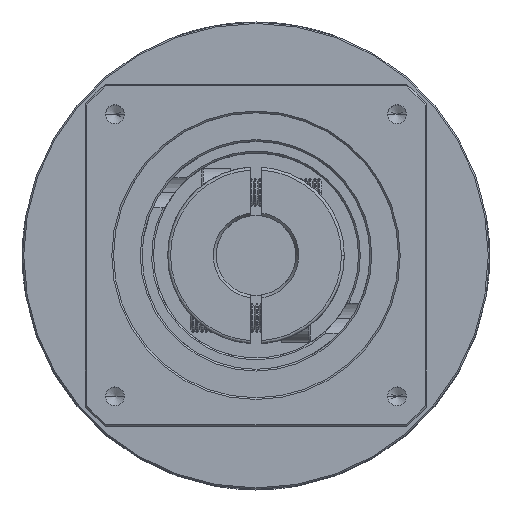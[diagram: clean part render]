
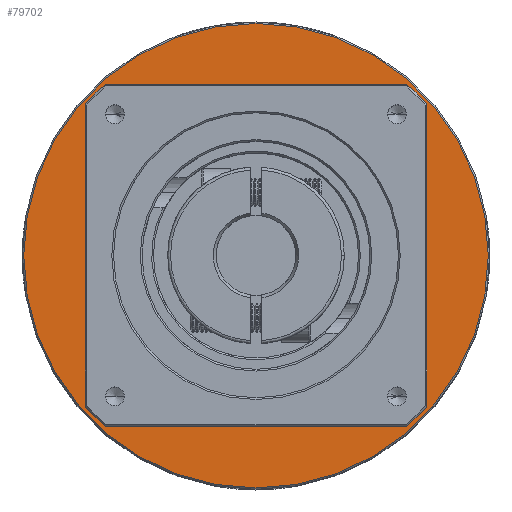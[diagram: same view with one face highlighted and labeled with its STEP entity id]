
A CAD part, top view. The second image highlights one B-rep face of the part: STEP entity #79702.
In plain terms, the highlighted planar face has unit normal (0, 0, 1).
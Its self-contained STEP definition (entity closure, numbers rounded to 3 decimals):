
#4135 = CIRCLE ( 'NONE', #102585, 40.75 ) ;
#4404 = EDGE_CURVE ( 'NONE', #85262, #93563, #19934, .T. ) ;
#7989 = DIRECTION ( 'NONE',  ( 1., 0., 0. ) ) ;
#8494 = AXIS2_PLACEMENT_3D ( 'NONE', #48746, #110850, #57627 ) ;
#12412 = AXIS2_PLACEMENT_3D ( 'NONE', #98081, #44962, #107081 ) ;
#14315 = AXIS2_PLACEMENT_3D ( 'NONE', #114461, #61302, #7989 ) ;
#19934 = CIRCLE ( 'NONE', #8494, 30. ) ;
#20950 = EDGE_CURVE ( 'NONE', #22572, #65944, #51427, .T. ) ;
#22021 = AXIS2_PLACEMENT_3D ( 'NONE', #79377, #26232, #88254 ) ;
#22572 = VERTEX_POINT ( 'NONE', #27187 ) ;
#25544 = PLANE ( 'NONE',  #14315 ) ;
#26232 = DIRECTION ( 'NONE',  ( 0., 0., -1. ) ) ;
#27187 = CARTESIAN_POINT ( 'NONE',  ( -59.66, -21.798, -4.364 ) ) ;
#30404 = DIRECTION ( 'NONE',  ( 0., 0., -1. ) ) ;
#32382 = ORIENTED_EDGE ( 'NONE', *, *, #85033, .F. ) ;
#36769 = CARTESIAN_POINT ( 'NONE',  ( -29.66, 18.952, -4.364 ) ) ;
#40386 = CIRCLE ( 'NONE', #22021, 30. ) ;
#44135 = EDGE_LOOP ( 'NONE', ( #32382, #88581 ) ) ;
#44962 = DIRECTION ( 'NONE',  ( 0., 0., -1. ) ) ;
#47084 = EDGE_CURVE ( 'NONE', #93563, #85262, #40386, .T. ) ;
#48746 = CARTESIAN_POINT ( 'NONE',  ( -59.66, 18.952, -4.364 ) ) ;
#51427 = CIRCLE ( 'NONE', #12412, 40.75 ) ;
#52357 = EDGE_LOOP ( 'NONE', ( #92919, #79896 ) ) ;
#53719 = FACE_BOUND ( 'NONE', #52357, .T. ) ;
#55944 = CARTESIAN_POINT ( 'NONE',  ( -89.66, 18.952, -4.364 ) ) ;
#57627 = DIRECTION ( 'NONE',  ( -1., 0., 0. ) ) ;
#61302 = DIRECTION ( 'NONE',  ( 0., 0., 1. ) ) ;
#65944 = VERTEX_POINT ( 'NONE', #80648 ) ;
#77325 = FACE_OUTER_BOUND ( 'NONE', #44135, .T. ) ;
#79377 = CARTESIAN_POINT ( 'NONE',  ( -59.66, 18.952, -4.364 ) ) ;
#79702 = ADVANCED_FACE ( 'NONE', ( #77325, #53719 ), #25544, .T. ) ;
#79896 = ORIENTED_EDGE ( 'NONE', *, *, #4404, .T. ) ;
#80648 = CARTESIAN_POINT ( 'NONE',  ( -59.66, 59.702, -4.364 ) ) ;
#83547 = CARTESIAN_POINT ( 'NONE',  ( -59.66, 18.952, -4.364 ) ) ;
#85033 = EDGE_CURVE ( 'NONE', #65944, #22572, #4135, .T. ) ;
#85262 = VERTEX_POINT ( 'NONE', #36769 ) ;
#88254 = DIRECTION ( 'NONE',  ( -1., 0., 0. ) ) ;
#88581 = ORIENTED_EDGE ( 'NONE', *, *, #20950, .F. ) ;
#92422 = DIRECTION ( 'NONE',  ( 0., 1., 0. ) ) ;
#92919 = ORIENTED_EDGE ( 'NONE', *, *, #47084, .T. ) ;
#93563 = VERTEX_POINT ( 'NONE', #55944 ) ;
#98081 = CARTESIAN_POINT ( 'NONE',  ( -59.66, 18.952, -4.364 ) ) ;
#102585 = AXIS2_PLACEMENT_3D ( 'NONE', #83547, #30404, #92422 ) ;
#107081 = DIRECTION ( 'NONE',  ( 0., 1., 0. ) ) ;
#110850 = DIRECTION ( 'NONE',  ( 0., 0., -1. ) ) ;
#114461 = CARTESIAN_POINT ( 'NONE',  ( -59.66, 18.952, -4.364 ) ) ;
